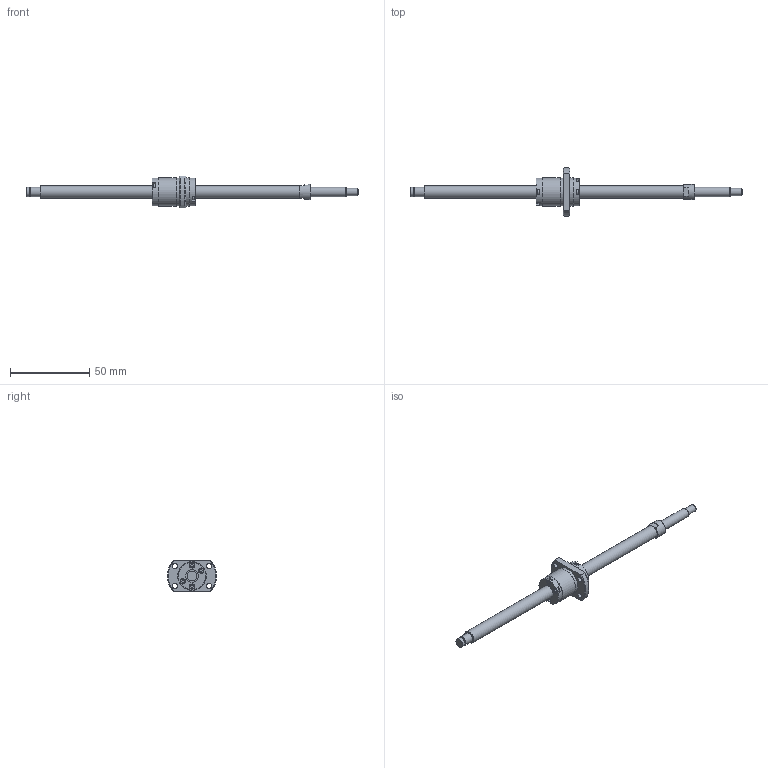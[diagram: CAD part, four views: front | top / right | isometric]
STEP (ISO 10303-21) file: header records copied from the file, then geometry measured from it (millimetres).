
FILE_DESCRIPTION(/* description */ ('STEP AP214'),/* implementation_level */ '2;1');
FILE_NAME(/* name */ 'PSRT0812-160R210C5B0X(B71)',/* time_stamp */ '2026-08-06T16:13:58+02:00',/* author */ ('License CC BY-ND 4.0'),/* organization */ ('CADENAS'),/* preprocessor_version */ 'ST-DEVELOPER v20',/* originating_system */ 'PARTsolutions',/* authorisation */ ' ');
FILE_SCHEMA (('AUTOMOTIVE_DESIGN {1 0 10303 214 3 1 1}'));
Length unit declared in the file: millimetre
Products named in the file (3): PSRT0812-160R210C5B0X(B71); PSRT0812B210_shaft; PSR0812_nut
Assembly tree (2 placements, depth 2):
  PSRT0812-160R210C5B0X(B71)
    PSRT0812B210_shaft
    PSR0812_nut
Bounding box: 210 x 30.91 x 20 mm (x, y, z)
Volume: 16138.4 mm3; surface area: 8853.4 mm2
Topology: 2 solids, 2 shells, 155 faces, 367 edges, 241 vertices
Faces by surface type: plane 109, cylinder 35, cone 10, torus 1
Full cylindrical faces by diameter (mm): 3 x8, 3.4 x4, 4.5 x1, 5.7 x1, 6 x3, 8 x2, 9.5 x1, 17.5 x2, 17.7 x1, 18 x2
Entity records: 4367 total; most frequent: CARTESIAN_POINT 752, DIRECTION 738, ORIENTED_EDGE 664, EDGE_CURVE 332, AXIS2_PLACEMENT_3D 256, VERTEX_POINT 238, LINE 226, VECTOR 226
